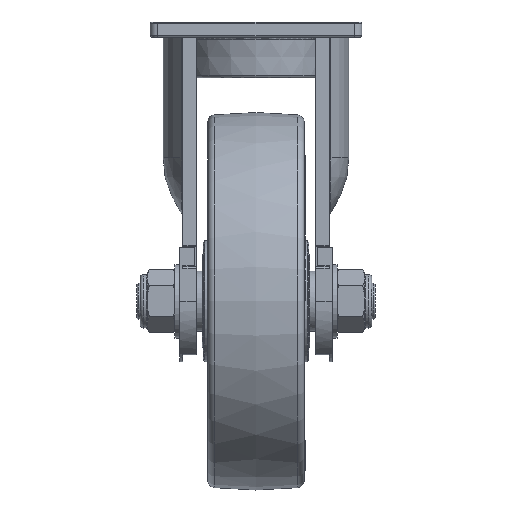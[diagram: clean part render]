
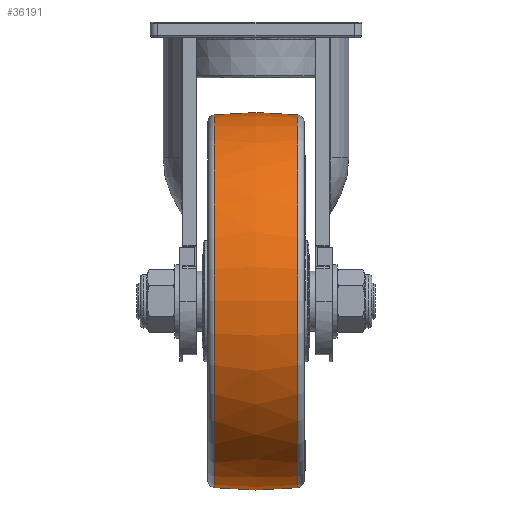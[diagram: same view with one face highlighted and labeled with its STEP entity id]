
A CAD part, left-side view. The second image highlights one B-rep face of the part: STEP entity #36191.
In plain terms, the highlighted free-form (B-spline) face has degree [2, 2] with [3, 9] control points.
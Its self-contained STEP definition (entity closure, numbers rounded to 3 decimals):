
#173=(
BOUNDED_SURFACE()
B_SPLINE_SURFACE(2,2,((#58606,#58607,#58608,#58609,#58610,#58611,#58612,
#58613,#58614),(#58615,#58616,#58617,#58618,#58619,#58620,#58621,#58622,
#58623),(#58624,#58625,#58626,#58627,#58628,#58629,#58630,#58631,#58632)),
 .UNSPECIFIED.,.F.,.T.,.F.)
B_SPLINE_SURFACE_WITH_KNOTS((3,3),(3,2,2,2,3),(-0.11,0.11),
(-3.142,-1.571,0.,1.571,3.142),
 .UNSPECIFIED.)
GEOMETRIC_REPRESENTATION_ITEM()
RATIONAL_B_SPLINE_SURFACE(((1.,0.707,1.,0.707,1.,
0.707,1.,0.707,1.),(0.994,0.703,
0.994,0.703,0.994,0.703,
0.994,0.703,0.994),(1.,0.707,
1.,0.707,1.,0.707,1.,0.707,1.)))
REPRESENTATION_ITEM('')
SURFACE()
);
#8190=(
BOUNDED_CURVE()
B_SPLINE_CURVE(2,(#58637,#58638,#58639),.UNSPECIFIED.,.F.,.F.)
B_SPLINE_CURVE_WITH_KNOTS((3,3),(-0.11,0.11),
 .UNSPECIFIED.)
CURVE()
GEOMETRIC_REPRESENTATION_ITEM()
RATIONAL_B_SPLINE_CURVE((1.,0.994,1.))
REPRESENTATION_ITEM('')
);
#10054=FACE_OUTER_BOUND('',#12274,.T.);
#12274=EDGE_LOOP('',(#29503,#29504,#29505,#29506,#29507,#29508));
#13280=CIRCLE('',#38013,12.348);
#13281=CIRCLE('',#38014,12.348);
#13283=CIRCLE('',#38016,12.348);
#13284=CIRCLE('',#38017,12.348);
#16279=VERTEX_POINT('',#58600);
#16280=VERTEX_POINT('',#58601);
#16282=VERTEX_POINT('',#58633);
#16283=VERTEX_POINT('',#58634);
#20881=EDGE_CURVE('',#16279,#16280,#13280,.T.);
#20882=EDGE_CURVE('',#16280,#16279,#13281,.T.);
#20884=EDGE_CURVE('',#16282,#16283,#13283,.T.);
#20885=EDGE_CURVE('',#16283,#16282,#13284,.T.);
#20886=EDGE_CURVE('',#16283,#16280,#8190,.T.);
#29503=ORIENTED_EDGE('',*,*,#20884,.F.);
#29504=ORIENTED_EDGE('',*,*,#20885,.F.);
#29505=ORIENTED_EDGE('',*,*,#20886,.T.);
#29506=ORIENTED_EDGE('',*,*,#20882,.T.);
#29507=ORIENTED_EDGE('',*,*,#20881,.T.);
#29508=ORIENTED_EDGE('',*,*,#20886,.F.);
#36191=ADVANCED_FACE('',(#10054),#173,.F.);
#38013=AXIS2_PLACEMENT_3D('',#58602,#43641,#43642);
#38014=AXIS2_PLACEMENT_3D('',#58603,#43643,#43644);
#38016=AXIS2_PLACEMENT_3D('',#58635,#43647,#43648);
#38017=AXIS2_PLACEMENT_3D('',#58636,#43649,#43650);
#43641=DIRECTION('center_axis',(0.,-1.,0.));
#43642=DIRECTION('ref_axis',(-1.,0.,0.));
#43643=DIRECTION('center_axis',(0.,-1.,0.));
#43644=DIRECTION('ref_axis',(-1.,0.,0.));
#43647=DIRECTION('center_axis',(0.,-1.,0.));
#43648=DIRECTION('ref_axis',(-1.,0.,0.));
#43649=DIRECTION('center_axis',(0.,-1.,0.));
#43650=DIRECTION('ref_axis',(-1.,0.,0.));
#58600=CARTESIAN_POINT('',(0.,2.755,-30.848));
#58601=CARTESIAN_POINT('',(12.348,2.755,-18.5));
#58602=CARTESIAN_POINT('Origin',(0.,2.755,-18.5));
#58603=CARTESIAN_POINT('Origin',(0.,2.755,-18.5));
#58606=CARTESIAN_POINT('Ctrl Pts',(12.348,2.755,-18.5));
#58607=CARTESIAN_POINT('Ctrl Pts',(12.348,2.755,-6.152));
#58608=CARTESIAN_POINT('Ctrl Pts',(0.,2.755,
-6.152));
#58609=CARTESIAN_POINT('Ctrl Pts',(-12.348,2.755,-6.152));
#58610=CARTESIAN_POINT('Ctrl Pts',(-12.348,2.755,-18.5));
#58611=CARTESIAN_POINT('Ctrl Pts',(-12.348,2.755,-30.848));
#58612=CARTESIAN_POINT('Ctrl Pts',(0.,2.755,
-30.848));
#58613=CARTESIAN_POINT('Ctrl Pts',(12.348,2.755,-30.848));
#58614=CARTESIAN_POINT('Ctrl Pts',(12.348,2.755,-18.5));
#58615=CARTESIAN_POINT('Ctrl Pts',(12.653,0.,
-18.5));
#58616=CARTESIAN_POINT('Ctrl Pts',(12.653,0.,
-5.847));
#58617=CARTESIAN_POINT('Ctrl Pts',(0.,0.,
-5.847));
#58618=CARTESIAN_POINT('Ctrl Pts',(-12.653,0.,
-5.847));
#58619=CARTESIAN_POINT('Ctrl Pts',(-12.653,0.,
-18.5));
#58620=CARTESIAN_POINT('Ctrl Pts',(-12.653,0.,
-31.153));
#58621=CARTESIAN_POINT('Ctrl Pts',(0.,0.,
-31.153));
#58622=CARTESIAN_POINT('Ctrl Pts',(12.653,0.,
-31.153));
#58623=CARTESIAN_POINT('Ctrl Pts',(12.653,0.,
-18.5));
#58624=CARTESIAN_POINT('Ctrl Pts',(12.348,-2.755,-18.5));
#58625=CARTESIAN_POINT('Ctrl Pts',(12.348,-2.755,-6.152));
#58626=CARTESIAN_POINT('Ctrl Pts',(0.,-2.755,
-6.152));
#58627=CARTESIAN_POINT('Ctrl Pts',(-12.348,-2.755,
-6.152));
#58628=CARTESIAN_POINT('Ctrl Pts',(-12.348,-2.755,
-18.5));
#58629=CARTESIAN_POINT('Ctrl Pts',(-12.348,-2.755,-30.848));
#58630=CARTESIAN_POINT('Ctrl Pts',(0.,-2.755,
-30.848));
#58631=CARTESIAN_POINT('Ctrl Pts',(12.348,-2.755,-30.848));
#58632=CARTESIAN_POINT('Ctrl Pts',(12.348,-2.755,-18.5));
#58633=CARTESIAN_POINT('',(0.,-2.755,-30.848));
#58634=CARTESIAN_POINT('',(12.348,-2.755,-18.5));
#58635=CARTESIAN_POINT('Origin',(0.,-2.755,
-18.5));
#58636=CARTESIAN_POINT('Origin',(0.,-2.755,
-18.5));
#58637=CARTESIAN_POINT('Ctrl Pts',(12.348,-2.755,-18.5));
#58638=CARTESIAN_POINT('Ctrl Pts',(12.653,0.,
-18.5));
#58639=CARTESIAN_POINT('Ctrl Pts',(12.348,2.755,-18.5));
